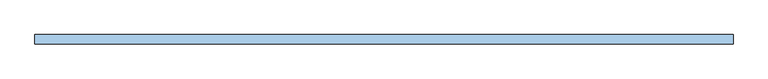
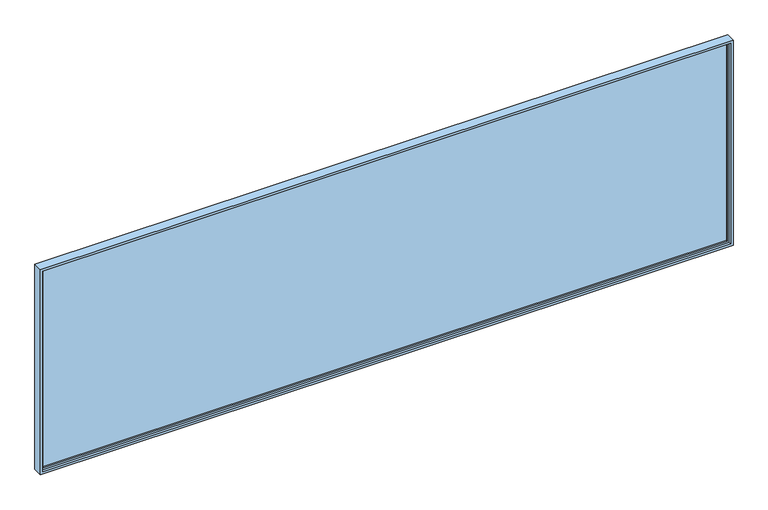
"""IFC4 building model written with IfcOpenShell, lengths in millimetres: window geometry, WD000-창 : WD000-창 11500x3600."""

from ifc_helpers import new_model, si_unit, frame, origin, place, context, project, spatial, polyline, outline, extrude, source, transform, mapped, element, save


def window_8a8d6591(model_context):
    return source(origin(), model_context, "Body", "SweptSolid", [
        extrude(outline(polyline([(5680.0, 6.0), (5680.0, -6.0), (-5680.0, -6.0), (-5680.0, 6.0), (5680.0, 6.0)])), frame((0.0, 0.0, 870.0), z_axis=(0.0, 0.0, 1.0), x_axis=(1.0, 0.0, 0.0)), (0.0, 0.0, 1.0), 3460.0),
        extrude(outline(polyline([(4360.0, -5710.0), (840.0, -5710.0), (840.0, 5710.0), (4360.0, 5710.0), (4360.0, -5710.0)]), holes=[polyline([(4330.0, 5680.0), (870.0, 5680.0), (870.0, -5680.0), (4330.0, -5680.0), (4330.0, 5680.0)])]), frame((0.0, -35.0, 0.0), z_axis=(0.0, 1.0, 0.0), x_axis=(0.0, 0.0, 1.0)), (0.0, 0.0, 1.0), 70.0),
        extrude(outline(polyline([(4400.0, 5750.0), (4400.0, -5750.0), (800.0, -5750.0), (800.0, 5750.0), (4400.0, 5750.0)]), holes=[polyline([(4360.0, 5710.0), (840.0, 5710.0), (840.0, -5710.0), (4360.0, -5710.0), (4360.0, 5710.0)])]), frame((0.0, -78.6430223, 0.0), z_axis=(0.0, 1.0, 0.0), x_axis=(0.0, 0.0, 1.0)), (0.0, 0.0, 1.0), 157.2860446),
    ])


if __name__ == "__main__":
    model = new_model("IFC4")
    model_context = context("Model", 3, world=origin())
    ifc_project = project(units=[si_unit("LENGTHUNIT", "METRE", prefix="MILLI")], contexts=[model_context])
    site = spatial("IfcSite", under=ifc_project)
    building = spatial("IfcBuilding", under=site)
    placement = place(None, origin())
    window_shape = window_8a8d6591(model_context)
    element("IfcWindow", 1, ObjectType="WD000-창 : WD000-창 11500x3600", at=placement, inside=building, context=model_context, shape_type="MappedRepresentation", body=[
        mapped(window_shape, transform((0.0, 0.0, 0.0), x_axis=(1.0, 0.0, 0.0), y_axis=(0.0, 1.0, 0.0), z_axis=(0.0, 0.0, 1.0))),
    ])
    save(model, "model.ifc")
